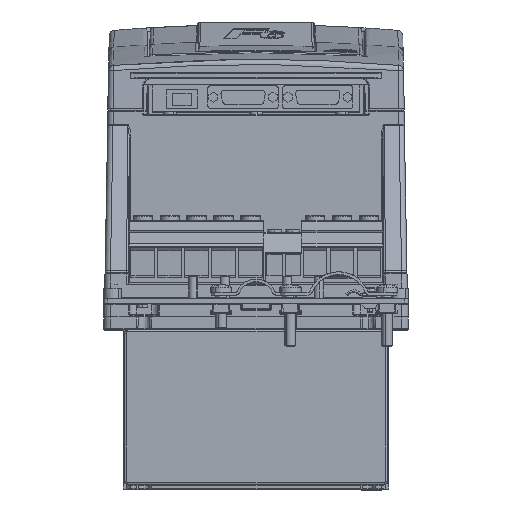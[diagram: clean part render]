
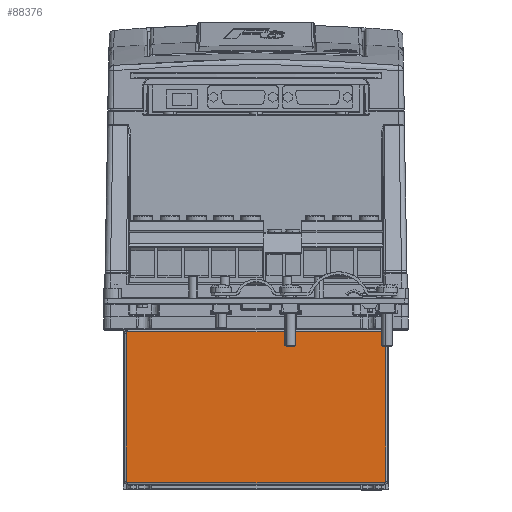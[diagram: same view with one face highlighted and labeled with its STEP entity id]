
A CAD part, top view. The second image highlights one B-rep face of the part: STEP entity #88376.
In plain terms, the highlighted planar face has unit normal (0, 0, 1).
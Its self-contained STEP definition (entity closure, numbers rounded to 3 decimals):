
#2156 = EDGE_CURVE ( 'NONE', #106732, #17108, #114784, .T. ) ;
#5122 = AXIS2_PLACEMENT_3D ( 'NONE', #34162, #72861, #71637 ) ;
#5253 = DIRECTION ( 'NONE',  ( 0., 0., 1. ) ) ;
#5331 = CARTESIAN_POINT ( 'NONE',  ( 71.5, -3.65, 60. ) ) ;
#7683 = CARTESIAN_POINT ( 'NONE',  ( -71.5, -3.65, 60. ) ) ;
#11232 = CARTESIAN_POINT ( 'NONE',  ( 71.5, -87.15, 60. ) ) ;
#14743 = ORIENTED_EDGE ( 'NONE', *, *, #66887, .T. ) ;
#15017 = DIRECTION ( 'NONE',  ( 1., 0., 0. ) ) ;
#17108 = VERTEX_POINT ( 'NONE', #86586 ) ;
#18258 = CIRCLE ( 'NONE', #102460, 1. ) ;
#19053 = CARTESIAN_POINT ( 'NONE',  ( -71.5, -87.15, 60. ) ) ;
#19800 = LINE ( 'NONE', #86603, #110760 ) ;
#20675 = ORIENTED_EDGE ( 'NONE', *, *, #39259, .T. ) ;
#24060 = CARTESIAN_POINT ( 'NONE',  ( 0., -3.65, 60. ) ) ;
#24329 = EDGE_CURVE ( 'NONE', #24464, #26115, #18258, .T. ) ;
#24464 = VERTEX_POINT ( 'NONE', #114843 ) ;
#26115 = VERTEX_POINT ( 'NONE', #47054 ) ;
#29996 = DIRECTION ( 'NONE',  ( 1., 0., 0. ) ) ;
#34162 = CARTESIAN_POINT ( 'NONE',  ( 0., -45.9, 60. ) ) ;
#34571 = CARTESIAN_POINT ( 'NONE',  ( 72.5, -45.9, 60. ) ) ;
#35387 = PLANE ( 'NONE',  #5122 ) ;
#39259 = EDGE_CURVE ( 'NONE', #65288, #103305, #93198, .T. ) ;
#46211 = CIRCLE ( 'NONE', #79489, 1. ) ;
#46327 = DIRECTION ( 'NONE',  ( 0., -1., 0. ) ) ;
#46457 = AXIS2_PLACEMENT_3D ( 'NONE', #51833, #5253, #15017 ) ;
#47054 = CARTESIAN_POINT ( 'NONE',  ( 72.5, -87.15, 60. ) ) ;
#51833 = CARTESIAN_POINT ( 'NONE',  ( 71.5, -4.65, 60. ) ) ;
#53121 = VECTOR ( 'NONE', #72052, 1000. ) ;
#55170 = EDGE_LOOP ( 'NONE', ( #62616, #20675, #97623, #75810, #81026, #94228, #14743, #74924 ) ) ;
#55780 = EDGE_CURVE ( 'NONE', #103305, #74342, #89083, .T. ) ;
#58278 = CIRCLE ( 'NONE', #91588, 1. ) ;
#62172 = VECTOR ( 'NONE', #46327, 1000. ) ;
#62328 = EDGE_CURVE ( 'NONE', #26115, #65288, #81233, .T. ) ;
#62616 = ORIENTED_EDGE ( 'NONE', *, *, #62328, .T. ) ;
#65288 = VERTEX_POINT ( 'NONE', #112910 ) ;
#66887 = EDGE_CURVE ( 'NONE', #96666, #24464, #19800, .T. ) ;
#67328 = EDGE_CURVE ( 'NONE', #17108, #96666, #46211, .T. ) ;
#71637 = DIRECTION ( 'NONE',  ( 1., 0., 0. ) ) ;
#71914 = DIRECTION ( 'NONE',  ( 1., 0., 0. ) ) ;
#72052 = DIRECTION ( 'NONE',  ( 0., 1., 0. ) ) ;
#72861 = DIRECTION ( 'NONE',  ( 0., 0., 1. ) ) ;
#73975 = CARTESIAN_POINT ( 'NONE',  ( -72.5, -45.9, 60. ) ) ;
#74342 = VERTEX_POINT ( 'NONE', #7683 ) ;
#74924 = ORIENTED_EDGE ( 'NONE', *, *, #24329, .T. ) ;
#75810 = ORIENTED_EDGE ( 'NONE', *, *, #117813, .T. ) ;
#76105 = CARTESIAN_POINT ( 'NONE',  ( -72.5, -4.65, 60. ) ) ;
#79489 = AXIS2_PLACEMENT_3D ( 'NONE', #19053, #103662, #29996 ) ;
#81026 = ORIENTED_EDGE ( 'NONE', *, *, #2156, .T. ) ;
#81233 = LINE ( 'NONE', #34571, #53121 ) ;
#86586 = CARTESIAN_POINT ( 'NONE',  ( -72.5, -87.15, 60. ) ) ;
#86603 = CARTESIAN_POINT ( 'NONE',  ( 0., -88.15, 60. ) ) ;
#86645 = CARTESIAN_POINT ( 'NONE',  ( -71.5, -88.15, 60. ) ) ;
#88376 = ADVANCED_FACE ( 'NONE', ( #89402 ), #35387, .T. ) ;
#89083 = LINE ( 'NONE', #24060, #120593 ) ;
#89402 = FACE_OUTER_BOUND ( 'NONE', #55170, .T. ) ;
#91588 = AXIS2_PLACEMENT_3D ( 'NONE', #117911, #110522, #71914 ) ;
#93198 = CIRCLE ( 'NONE', #46457, 1. ) ;
#94228 = ORIENTED_EDGE ( 'NONE', *, *, #67328, .T. ) ;
#94650 = DIRECTION ( 'NONE',  ( 0., 0., 1. ) ) ;
#96666 = VERTEX_POINT ( 'NONE', #86645 ) ;
#97623 = ORIENTED_EDGE ( 'NONE', *, *, #55780, .T. ) ;
#102460 = AXIS2_PLACEMENT_3D ( 'NONE', #11232, #94650, #115460 ) ;
#103305 = VERTEX_POINT ( 'NONE', #5331 ) ;
#103662 = DIRECTION ( 'NONE',  ( 0., 0., 1. ) ) ;
#106732 = VERTEX_POINT ( 'NONE', #76105 ) ;
#108136 = DIRECTION ( 'NONE',  ( -1., 0., 0. ) ) ;
#110522 = DIRECTION ( 'NONE',  ( 0., 0., 1. ) ) ;
#110760 = VECTOR ( 'NONE', #113040, 1000. ) ;
#112910 = CARTESIAN_POINT ( 'NONE',  ( 72.5, -4.65, 60. ) ) ;
#113040 = DIRECTION ( 'NONE',  ( 1., 0., 0. ) ) ;
#114784 = LINE ( 'NONE', #73975, #62172 ) ;
#114843 = CARTESIAN_POINT ( 'NONE',  ( 71.5, -88.15, 60. ) ) ;
#115460 = DIRECTION ( 'NONE',  ( 1., 0., 0. ) ) ;
#117813 = EDGE_CURVE ( 'NONE', #74342, #106732, #58278, .T. ) ;
#117911 = CARTESIAN_POINT ( 'NONE',  ( -71.5, -4.65, 60. ) ) ;
#120593 = VECTOR ( 'NONE', #108136, 1000. ) ;
